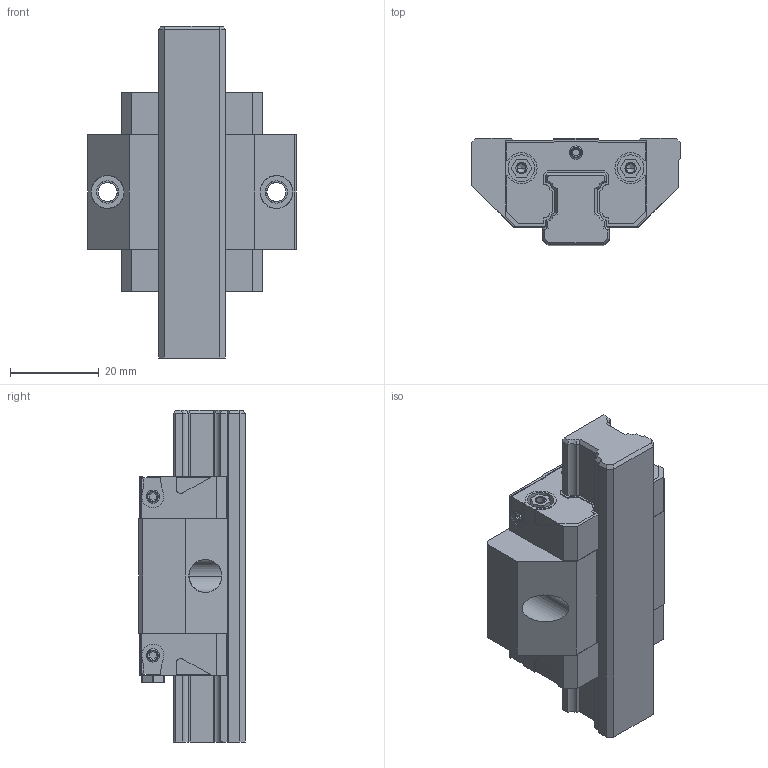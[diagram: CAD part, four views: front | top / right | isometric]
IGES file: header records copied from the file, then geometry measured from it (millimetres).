
Start section: 3D InterOp IGES (v. 2019 1.0.2), Spatial Corp. Copyright (c) 1999-2017.
Global section: file name: R1665_size15.igs; native system: Spatial Corp.; preprocessor: 3D InterOp GENERIC/IGES 3.0; author: Noname; organization: Noname; date: 20220629.125021; units: millimetre
Bounding box: 47 x 24 x 74.7 mm (x, y, z)
Surface area: 17856.9 mm2 (no closed solid volume)
Topology: 0 solids, 0 shells, 501 faces, 2618 edges, 2596 vertices
Faces by surface type: extrusion 299, revolution 202
